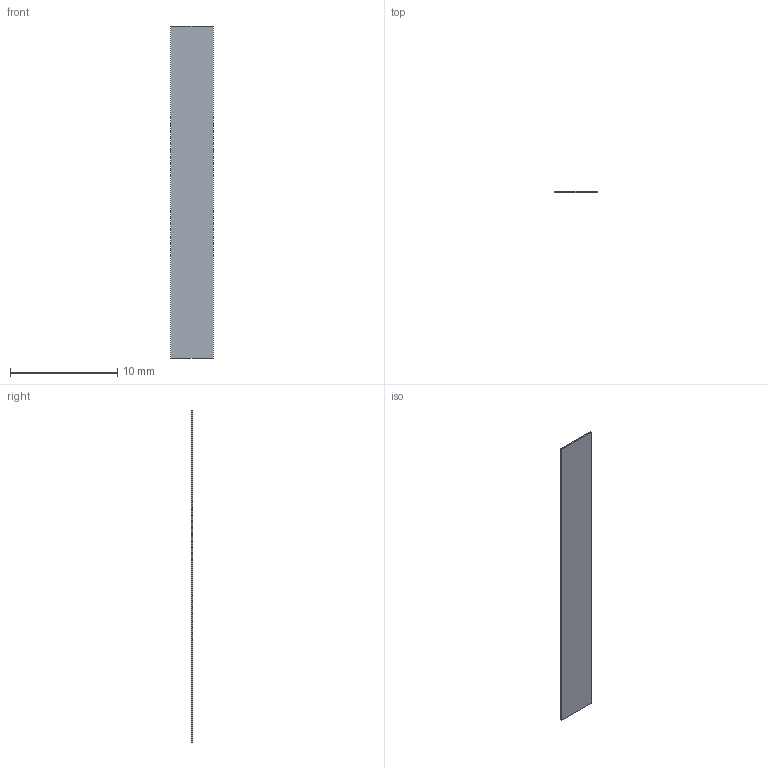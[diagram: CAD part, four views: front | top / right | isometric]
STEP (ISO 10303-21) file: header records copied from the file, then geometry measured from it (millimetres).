
FILE_DESCRIPTION(('Open CASCADE Model'),'2;1');
FILE_NAME('Open CASCADE Shape Model','2026-11-23T18:10:19',('Author'),( 'Open CASCADE'),'Open CASCADE STEP processor 8.0','build123d', 'Unknown');
FILE_SCHEMA(('AUTOMOTIVE_DESIGN { 1 0 10303 214 1 1 1 1 }'));
Length unit declared in the file: millimetre
Products named in the file (2): =>[0:1:1:2]; COMPOUND
Assembly tree (1 placements, depth 2):
  =>[0:1:1:2]
    COMPOUND
Bounding box: 4 x 0.13 x 31 mm (x, y, z)
Volume: 16.1 mm3; surface area: 257.1 mm2
Topology: 1 solids, 1 shells, 6 faces, 12 edges, 8 vertices
Faces by surface type: plane 6
Entity records: 340 total; most frequent: CARTESIAN_POINT 52, DIRECTION 52, LINE 36, VECTOR 36, ORIENTED_EDGE 24, PCURVE 24, DEFINITIONAL_REPRESENTATION 24, EDGE_CURVE 12
